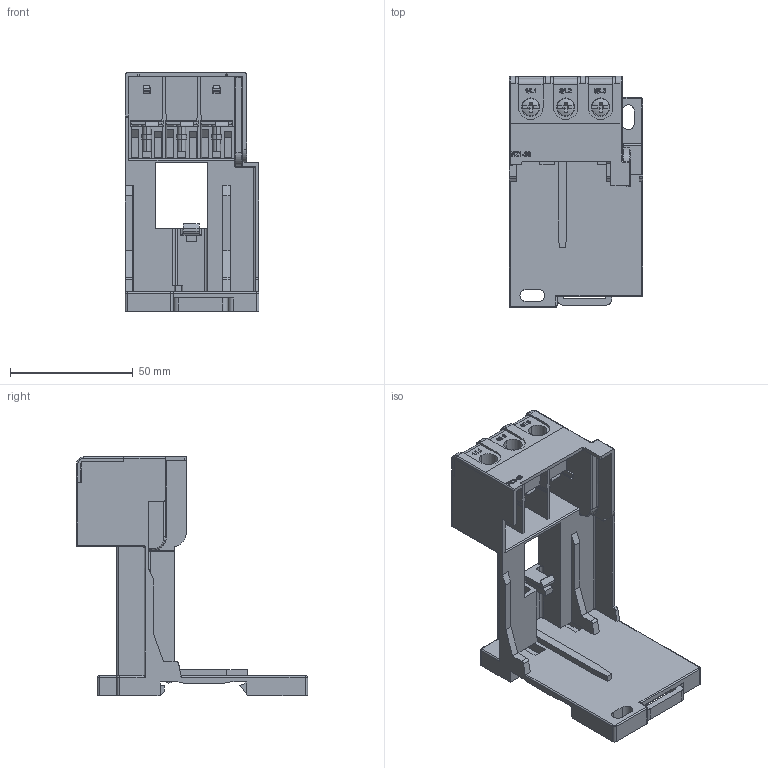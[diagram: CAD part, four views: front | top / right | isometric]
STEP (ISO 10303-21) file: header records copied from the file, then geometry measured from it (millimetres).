
FILE_DESCRIPTION (( 'STEP AP214' ), '1' );
FILE_NAME ('TENGEN_FZ1-38.STEP', '2026-03-26T11:26:22', ( '' ), ( '' ), 'SwSTEP 2.0', 'SolidWorks 2024', '' );
FILE_SCHEMA (( 'AUTOMOTIVE_DESIGN' ));
Length unit declared in the file: millimetre
Products named in the file (15): TENGEN_FZ1-38.stp; 8TZD_110_1015_AF1.stp; 8TZD_064_1088_AF0.stp; 8TZD_307_1019.stp; 8TZD_585_1324_AF1.stp; TENGEN_FZ1-38; Q_TZJ0303_3-M4X16_AF0.stp; 8TZD_110_1015_AF2.stp; 8TZD_110_1015_AF0.stp; 8TZD_585_1324_AF0.stp; Q_TZJ0303_3-M4X16_AF2.stp; 8TZD_282_3001_AF1.stp; 8TZD_585_1324_AF2.stp; Q_TZJ0303_3-M4X16_AF1.stp; 8TZD_261_3002_1.stp
Assembly tree (14 placements, depth 3):
  TENGEN_FZ1-38
    TENGEN_FZ1-38.stp
      8TZD_064_1088_AF0.stp
      8TZD_307_1019.stp
      8TZD_261_3002_1.stp
      8TZD_585_1324_AF0.stp
      8TZD_585_1324_AF1.stp
      8TZD_585_1324_AF2.stp
      8TZD_110_1015_AF0.stp
      8TZD_110_1015_AF1.stp
      8TZD_110_1015_AF2.stp
      8TZD_282_3001_AF1.stp
      Q_TZJ0303_3-M4X16_AF0.stp
      Q_TZJ0303_3-M4X16_AF1.stp
      Q_TZJ0303_3-M4X16_AF2.stp
Bounding box: 54.4 x 94 x 97.2 mm (x, y, z)
Volume: 45187.8 mm3; surface area: 50631.1 mm2
Topology: 7 solids, 16 shells, 1863 faces, 5036 edges, 3292 vertices
Faces by surface type: plane 1393, cylinder 264, bspline 171, torus 18, sphere 11, cone 6
Entity records: 65401 total; most frequent: CARTESIAN_POINT 19055, ORIENTED_EDGE 10038, DIRECTION 8495, EDGE_CURVE 5031, LINE 4083, VECTOR 4083, VERTEX_POINT 3292, AXIS2_PLACEMENT_3D 2206
